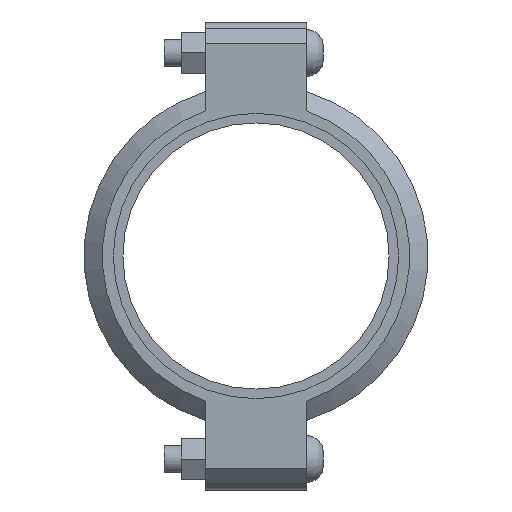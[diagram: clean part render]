
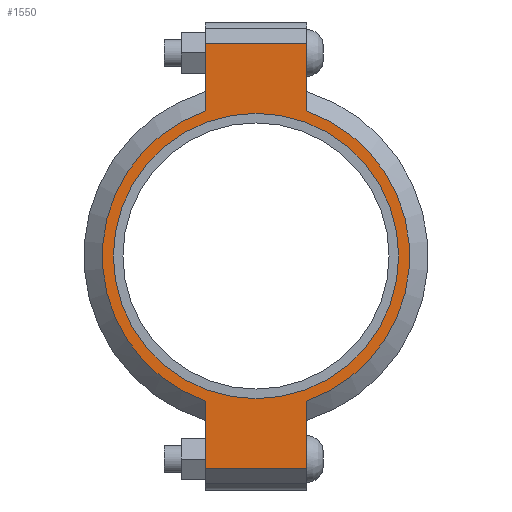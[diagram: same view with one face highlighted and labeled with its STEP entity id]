
A CAD part, left-side view. The second image highlights one B-rep face of the part: STEP entity #1550.
In plain terms, the highlighted planar face has unit normal (-1, 0, 0) as drawn and (0, 0, 1) by its records, which use the part's own axes.
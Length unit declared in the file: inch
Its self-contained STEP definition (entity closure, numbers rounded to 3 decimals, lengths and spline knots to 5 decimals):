
#174=LINE('',#2705,#267);
#182=LINE('',#2741,#275);
#189=LINE('',#2762,#282);
#198=LINE('',#2794,#291);
#199=LINE('',#2798,#292);
#200=LINE('',#2800,#293);
#267=VECTOR('',#2205,0.3937);
#275=VECTOR('',#2221,0.3937);
#282=VECTOR('',#2240,0.3937);
#291=VECTOR('',#2265,0.3937);
#292=VECTOR('',#2270,0.3937);
#293=VECTOR('',#2271,0.3937);
#349=FACE_BOUND('',#527,.T.);
#421=FACE_OUTER_BOUND('',#526,.T.);
#526=EDGE_LOOP('',(#1291,#1292,#1293,#1294,#1295,#1296,#1297,#1298));
#527=EDGE_LOOP('',(#1299));
#599=CIRCLE('',#1769,3.25);
#625=CIRCLE('',#1828,3.5);
#626=CIRCLE('',#1829,3.5);
#691=VERTEX_POINT('',#2521);
#734=VERTEX_POINT('',#2702);
#735=VERTEX_POINT('',#2704);
#746=VERTEX_POINT('',#2736);
#747=VERTEX_POINT('',#2740);
#754=VERTEX_POINT('',#2759);
#755=VERTEX_POINT('',#2761);
#765=VERTEX_POINT('',#2797);
#766=VERTEX_POINT('',#2799);
#847=EDGE_CURVE('',#691,#691,#599,.T.);
#908=EDGE_CURVE('',#735,#734,#174,.T.);
#922=EDGE_CURVE('',#747,#746,#182,.T.);
#932=EDGE_CURVE('',#755,#754,#189,.T.);
#947=EDGE_CURVE('',#747,#734,#198,.T.);
#948=EDGE_CURVE('',#746,#755,#625,.T.);
#949=EDGE_CURVE('',#765,#754,#199,.T.);
#950=EDGE_CURVE('',#765,#766,#200,.T.);
#951=EDGE_CURVE('',#766,#735,#626,.T.);
#1291=ORIENTED_EDGE('',*,*,#947,.F.);
#1292=ORIENTED_EDGE('',*,*,#922,.T.);
#1293=ORIENTED_EDGE('',*,*,#948,.T.);
#1294=ORIENTED_EDGE('',*,*,#932,.T.);
#1295=ORIENTED_EDGE('',*,*,#949,.F.);
#1296=ORIENTED_EDGE('',*,*,#950,.T.);
#1297=ORIENTED_EDGE('',*,*,#951,.T.);
#1298=ORIENTED_EDGE('',*,*,#908,.T.);
#1299=ORIENTED_EDGE('',*,*,#847,.T.);
#1392=PLANE('',#1827);
#1550=ADVANCED_FACE('',(#421,#349),#1392,.T.);
#1769=AXIS2_PLACEMENT_3D('',#2523,#2081,#2082);
#1827=AXIS2_PLACEMENT_3D('',#2795,#2266,#2267);
#1828=AXIS2_PLACEMENT_3D('',#2796,#2268,#2269);
#1829=AXIS2_PLACEMENT_3D('',#2801,#2272,#2273);
#2081=DIRECTION('center_axis',(0.,0.,-1.));
#2082=DIRECTION('ref_axis',(-1.,0.,0.));
#2205=DIRECTION('',(-1.,0.,0.));
#2221=DIRECTION('',(1.,0.,0.));
#2240=DIRECTION('',(1.,0.,0.));
#2265=DIRECTION('',(0.,1.,0.));
#2266=DIRECTION('center_axis',(0.,0.,1.));
#2267=DIRECTION('ref_axis',(1.,0.,0.));
#2268=DIRECTION('center_axis',(0.,0.,1.));
#2269=DIRECTION('ref_axis',(-1.,0.,0.));
#2270=DIRECTION('',(0.,-1.,0.));
#2271=DIRECTION('',(-1.,0.,0.));
#2272=DIRECTION('center_axis',(0.,0.,1.));
#2273=DIRECTION('ref_axis',(-1.,0.,0.));
#2521=CARTESIAN_POINT('',(3.25,0.,1.04));
#2523=CARTESIAN_POINT('Origin',(0.,0.,1.04));
#2702=CARTESIAN_POINT('',(-4.83,1.156,1.04));
#2704=CARTESIAN_POINT('',(-3.30358,1.156,1.04));
#2705=CARTESIAN_POINT('',(-5.33,1.156,1.04));
#2736=CARTESIAN_POINT('',(-3.30358,-1.156,1.04));
#2740=CARTESIAN_POINT('',(-4.83,-1.156,1.04));
#2741=CARTESIAN_POINT('',(5.33,-1.156,1.04));
#2759=CARTESIAN_POINT('',(4.83,-1.156,1.04));
#2761=CARTESIAN_POINT('',(3.30358,-1.156,1.04));
#2762=CARTESIAN_POINT('',(5.33,-1.156,1.04));
#2794=CARTESIAN_POINT('',(-4.83,0.578,1.04));
#2795=CARTESIAN_POINT('Origin',(0.,0.,1.04));
#2796=CARTESIAN_POINT('Origin',(0.,0.,1.04));
#2797=CARTESIAN_POINT('',(4.83,1.156,1.04));
#2798=CARTESIAN_POINT('',(4.83,-0.578,1.04));
#2799=CARTESIAN_POINT('',(3.30358,1.156,1.04));
#2800=CARTESIAN_POINT('',(-5.33,1.156,1.04));
#2801=CARTESIAN_POINT('Origin',(0.,0.,1.04));
